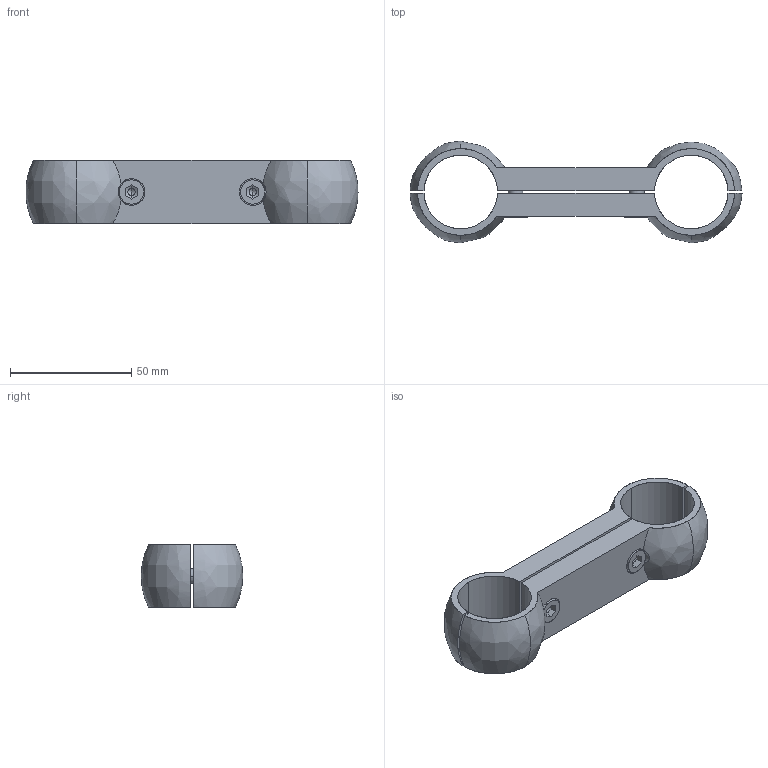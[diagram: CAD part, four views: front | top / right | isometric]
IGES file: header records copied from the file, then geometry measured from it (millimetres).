
Start section: SolidWorks IGES file using analytic representation for surfaces
Global section: file name: C:\Users\Gerard\OneDrive - Tecnodin, S.L\Escritorio\30 mm Verbinder im step. Format\31000410054.IGS; native system: SolidWorks 2016; preprocessor: SolidWorks 2016; author: Gerard; date: 240902.153558; units: millimetre
Bounding box: 136.89 x 41.9 x 26 mm (x, y, z)
Surface area: 22514.6 mm2 (no closed solid volume)
Topology: 0 solids, 0 shells, 85 faces, 1581 edges, 1573 vertices
Faces by surface type: revolution 46, bspline 39
